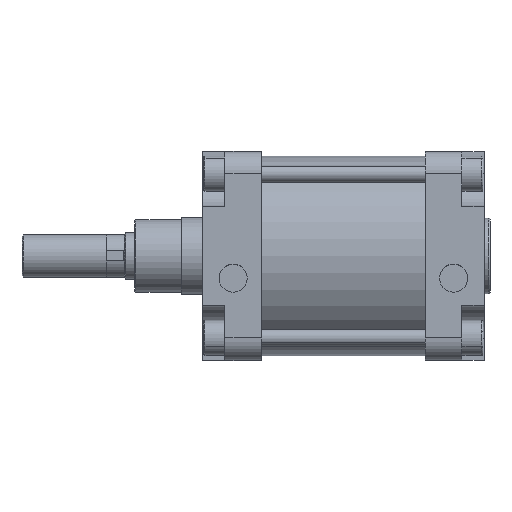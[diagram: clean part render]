
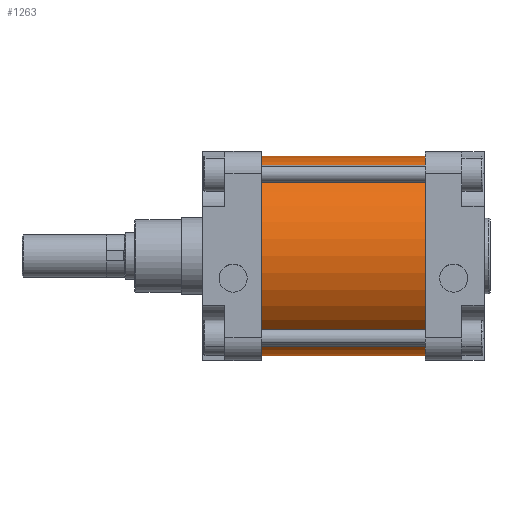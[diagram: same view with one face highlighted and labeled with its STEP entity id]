
A CAD part, top view. The second image highlights one B-rep face of the part: STEP entity #1263.
In plain terms, the highlighted cylindrical face has radius 85 mm (diameter 170 mm), a partial arc.
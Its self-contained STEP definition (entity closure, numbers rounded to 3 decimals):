
#853=CARTESIAN_POINT('Axis2P3D Location',(0.,0.,0.)) ;
#857=CARTESIAN_POINT('Vertex',(0.,85.,0.)) ;
#859=CARTESIAN_POINT('Vertex',(0.,-85.,0.)) ;
#1233=CARTESIAN_POINT('Axis2P3D Location',(70.,0.,0.)) ;
#1238=CARTESIAN_POINT('Line Origine',(70.,85.,0.)) ;
#1242=CARTESIAN_POINT('Vertex',(140.,85.,0.)) ;
#1245=CARTESIAN_POINT('Line Origine',(70.,-85.,0.)) ;
#1249=CARTESIAN_POINT('Vertex',(140.,-85.,0.)) ;
#1252=CARTESIAN_POINT('Axis2P3D Location',(140.,0.,0.)) ;
#854=DIRECTION('Axis2P3D Direction',(1.,0.,0.)) ;
#1234=DIRECTION('Axis2P3D Direction',(1.,0.,0.)) ;
#1235=DIRECTION('Axis2P3D XDirection',(0.,1.,0.)) ;
#1239=DIRECTION('Vector Direction',(1.,0.,0.)) ;
#1246=DIRECTION('Vector Direction',(1.,0.,0.)) ;
#1253=DIRECTION('Axis2P3D Direction',(1.,0.,0.)) ;
#855=AXIS2_PLACEMENT_3D('Circle Axis2P3D',#853,#854,$) ;
#1236=AXIS2_PLACEMENT_3D('Cylinder Axis2P3D',#1233,#1234,#1235) ;
#1254=AXIS2_PLACEMENT_3D('Circle Axis2P3D',#1252,#1253,$) ;
#1258=ORIENTED_EDGE('',*,*,#1244,.F.) ;
#1259=ORIENTED_EDGE('',*,*,#861,.T.) ;
#1260=ORIENTED_EDGE('',*,*,#1251,.T.) ;
#1261=ORIENTED_EDGE('',*,*,#1256,.F.) ;
#1240=VECTOR('Line Direction',#1239,1.) ;
#1247=VECTOR('Line Direction',#1246,1.) ;
#1263=ADVANCED_FACE('PartBody',(#1262),#1237,.T.) ;
#856=CIRCLE('generated circle',#855,85.) ;
#1255=CIRCLE('generated circle',#1254,85.) ;
#1237=CYLINDRICAL_SURFACE('generated cylinder',#1236,85.) ;
#861=EDGE_CURVE('',#858,#860,#856,.T.) ;
#1244=EDGE_CURVE('',#858,#1243,#1241,.T.) ;
#1251=EDGE_CURVE('',#860,#1250,#1248,.T.) ;
#1256=EDGE_CURVE('',#1243,#1250,#1255,.T.) ;
#1257=EDGE_LOOP('',(#1258,#1259,#1260,#1261)) ;
#1262=FACE_OUTER_BOUND('',#1257,.T.) ;
#1241=LINE('Line',#1238,#1240) ;
#1248=LINE('Line',#1245,#1247) ;
#858=VERTEX_POINT('',#857) ;
#860=VERTEX_POINT('',#859) ;
#1243=VERTEX_POINT('',#1242) ;
#1250=VERTEX_POINT('',#1249) ;
